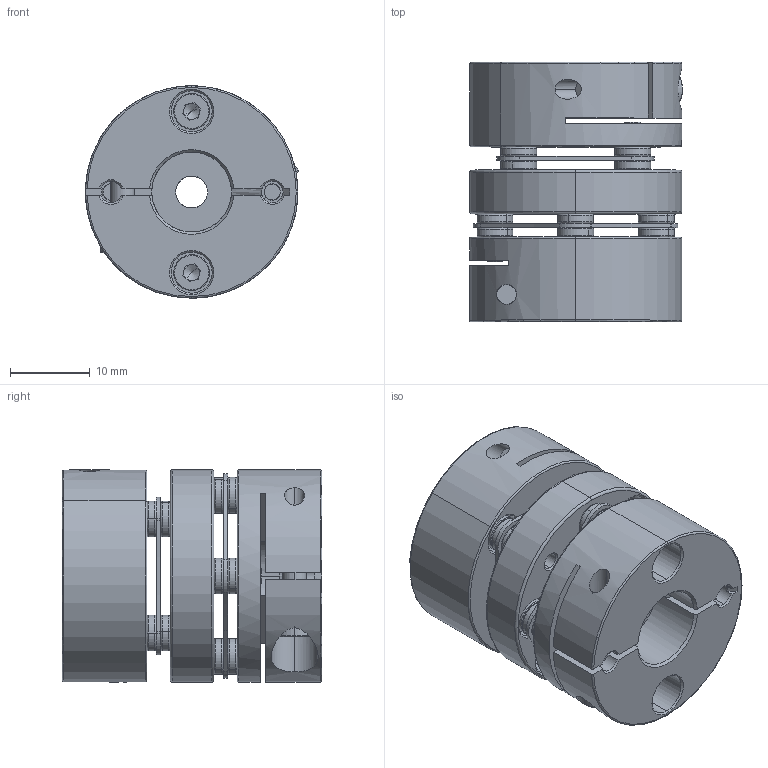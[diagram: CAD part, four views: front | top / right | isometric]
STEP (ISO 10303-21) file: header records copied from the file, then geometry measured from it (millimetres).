
FILE_DESCRIPTION (( 'STEP AP203' ), '1' );
FILE_NAME ('SDWA-26C-4X10_203.STEP', '2013-01-09T02:27:15', ( '' ), ( '' ), 'SwSTEP 2.0', 'SolidWorks 2012', '' );
FILE_SCHEMA (( 'CONFIG_CONTROL_DESIGN' ));
Length unit declared in the file: millimetre
Products named in the file (1): SDWA-26C-4X10_203
Bounding box: 26.69 x 32.5 x 26.6 mm (x, y, z)
Volume: 11798.8 mm3; surface area: 10519.5 mm2
Topology: 1 solids, 9 shells, 782 faces, 1785 edges, 1063 vertices
Faces by surface type: cylinder 251, plane 228, cone 165, torus 138
Entity records: 22387 total; most frequent: DIRECTION 4260, CARTESIAN_POINT 4050, ORIENTED_EDGE 3530, AXIS2_PLACEMENT_3D 1771, EDGE_CURVE 1765, VERTEX_POINT 1063, CIRCLE 988, EDGE_LOOP 902
